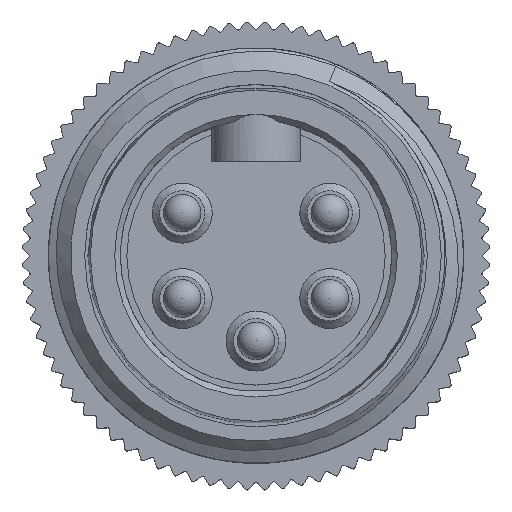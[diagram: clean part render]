
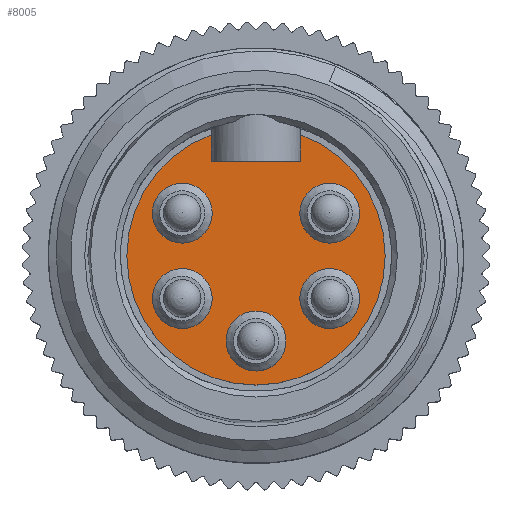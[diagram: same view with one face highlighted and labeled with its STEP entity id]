
A CAD part, top view. The second image highlights one B-rep face of the part: STEP entity #8005.
In plain terms, the highlighted planar face has unit normal (0, 0, 1).
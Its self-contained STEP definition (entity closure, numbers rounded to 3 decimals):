
#267 = EDGE_CURVE ( 'NONE', #13039, #13039, #6574, .T. ) ;
#293 = DIRECTION ( 'NONE',  ( -1., 0., 0. ) ) ;
#1129 = EDGE_LOOP ( 'NONE', ( #11181 ) ) ;
#1191 = EDGE_CURVE ( 'NONE', #18453, #18453, #1231, .T. ) ;
#1231 = CIRCLE ( 'NONE', #20681, 1.6 ) ;
#1575 = AXIS2_PLACEMENT_3D ( 'NONE', #19844, #13336, #10008 ) ;
#2425 = VERTEX_POINT ( 'NONE', #15048 ) ;
#2797 = CARTESIAN_POINT ( 'NONE',  ( 2.34, 2.28, -8. ) ) ;
#2827 = AXIS2_PLACEMENT_3D ( 'NONE', #8274, #18245, #3625 ) ;
#3313 = CARTESIAN_POINT ( 'NONE',  ( -2.4, 6.469, -8. ) ) ;
#3509 = CIRCLE ( 'NONE', #20726, 1.6 ) ;
#3625 = DIRECTION ( 'NONE',  ( -1., 0., 0. ) ) ;
#3673 = AXIS2_PLACEMENT_3D ( 'NONE', #11856, #11996, #5397 ) ;
#3745 = EDGE_LOOP ( 'NONE', ( #11832 ) ) ;
#4813 = ORIENTED_EDGE ( 'NONE', *, *, #267, .F. ) ;
#4995 = EDGE_LOOP ( 'NONE', ( #9355, #7850, #11711, #7447 ) ) ;
#5181 = DIRECTION ( 'NONE',  ( 0., 1., 0. ) ) ;
#5397 = DIRECTION ( 'NONE',  ( -1., 0., 0. ) ) ;
#5713 = FACE_BOUND ( 'NONE', #17333, .T. ) ;
#5903 = AXIS2_PLACEMENT_3D ( 'NONE', #15796, #7204, #7551 ) ;
#6013 = CIRCLE ( 'NONE', #5903, 6.9 ) ;
#6574 = CIRCLE ( 'NONE', #18903, 1.6 ) ;
#6576 = EDGE_CURVE ( 'NONE', #9856, #19609, #6013, .T. ) ;
#6585 = DIRECTION ( 'NONE',  ( 1., 0., 0. ) ) ;
#6812 = CARTESIAN_POINT ( 'NONE',  ( 2.4, 6.9, -8. ) ) ;
#6826 = EDGE_CURVE ( 'NONE', #10275, #19609, #13739, .T. ) ;
#7017 = EDGE_LOOP ( 'NONE', ( #14703 ) ) ;
#7099 = VERTEX_POINT ( 'NONE', #10880 ) ;
#7204 = DIRECTION ( 'NONE',  ( 0., 0., 1. ) ) ;
#7447 = ORIENTED_EDGE ( 'NONE', *, *, #6576, .T. ) ;
#7480 = CARTESIAN_POINT ( 'NONE',  ( 0., -4.55, -8. ) ) ;
#7551 = DIRECTION ( 'NONE',  ( 1., 0., 0. ) ) ;
#7762 = FACE_BOUND ( 'NONE', #7017, .T. ) ;
#7769 = CARTESIAN_POINT ( 'NONE',  ( 3.94, 2.28, -8. ) ) ;
#7850 = ORIENTED_EDGE ( 'NONE', *, *, #13648, .F. ) ;
#8005 = ADVANCED_FACE ( 'NONE', ( #12387, #7762, #12660, #18597, #13434, #5713 ), #8353, .F. ) ;
#8274 = CARTESIAN_POINT ( 'NONE',  ( -3.94, 2.28, -8. ) ) ;
#8353 = PLANE ( 'NONE',  #1575 ) ;
#8508 = DIRECTION ( 'NONE',  ( 0., 0., 1. ) ) ;
#9355 = ORIENTED_EDGE ( 'NONE', *, *, #6826, .F. ) ;
#9604 = VECTOR ( 'NONE', #5181, 1000. ) ;
#9804 = CARTESIAN_POINT ( 'NONE',  ( 2.4, 5.05, -8. ) ) ;
#9856 = VERTEX_POINT ( 'NONE', #3313 ) ;
#10008 = DIRECTION ( 'NONE',  ( 0., -1., 0. ) ) ;
#10275 = VERTEX_POINT ( 'NONE', #9804 ) ;
#10390 = EDGE_CURVE ( 'NONE', #7099, #7099, #14664, .T. ) ;
#10880 = CARTESIAN_POINT ( 'NONE',  ( -5.54, 2.28, -8. ) ) ;
#11181 = ORIENTED_EDGE ( 'NONE', *, *, #16340, .F. ) ;
#11317 = CARTESIAN_POINT ( 'NONE',  ( -5.54, -2.28, -8. ) ) ;
#11711 = ORIENTED_EDGE ( 'NONE', *, *, #18450, .F. ) ;
#11832 = ORIENTED_EDGE ( 'NONE', *, *, #10390, .F. ) ;
#11856 = CARTESIAN_POINT ( 'NONE',  ( 3.94, -2.28, -8. ) ) ;
#11996 = DIRECTION ( 'NONE',  ( 0., 0., 1. ) ) ;
#12387 = FACE_OUTER_BOUND ( 'NONE', #4995, .T. ) ;
#12660 = FACE_BOUND ( 'NONE', #1129, .T. ) ;
#12670 = DIRECTION ( 'NONE',  ( -1., 0., 0. ) ) ;
#12777 = VERTEX_POINT ( 'NONE', #11317 ) ;
#13039 = VERTEX_POINT ( 'NONE', #2797 ) ;
#13336 = DIRECTION ( 'NONE',  ( 0., 0., -1. ) ) ;
#13434 = FACE_BOUND ( 'NONE', #3745, .T. ) ;
#13648 = EDGE_CURVE ( 'NONE', #2425, #10275, #16562, .T. ) ;
#13739 = LINE ( 'NONE', #6812, #9604 ) ;
#14643 = CARTESIAN_POINT ( 'NONE',  ( 2.34, -2.28, -8. ) ) ;
#14664 = CIRCLE ( 'NONE', #2827, 1.6 ) ;
#14703 = ORIENTED_EDGE ( 'NONE', *, *, #19983, .F. ) ;
#14744 = DIRECTION ( 'NONE',  ( 0., -1., 0. ) ) ;
#15030 = CARTESIAN_POINT ( 'NONE',  ( 0., 5.05, -8. ) ) ;
#15048 = CARTESIAN_POINT ( 'NONE',  ( -2.4, 5.05, -8. ) ) ;
#15441 = ORIENTED_EDGE ( 'NONE', *, *, #1191, .F. ) ;
#15796 = CARTESIAN_POINT ( 'NONE',  ( 0., 0., -8. ) ) ;
#15938 = DIRECTION ( 'NONE',  ( 0., 0., 1. ) ) ;
#16100 = EDGE_LOOP ( 'NONE', ( #4813 ) ) ;
#16340 = EDGE_CURVE ( 'NONE', #21008, #21008, #19032, .T. ) ;
#16562 = LINE ( 'NONE', #15030, #17571 ) ;
#16690 = VECTOR ( 'NONE', #14744, 1000. ) ;
#17211 = CARTESIAN_POINT ( 'NONE',  ( 2.4, 6.469, -8. ) ) ;
#17333 = EDGE_LOOP ( 'NONE', ( #15441 ) ) ;
#17571 = VECTOR ( 'NONE', #6585, 1000. ) ;
#17592 = DIRECTION ( 'NONE',  ( -1., 0., 0. ) ) ;
#18137 = CARTESIAN_POINT ( 'NONE',  ( -2.4, 6.9, -8. ) ) ;
#18245 = DIRECTION ( 'NONE',  ( 0., 0., 1. ) ) ;
#18450 = EDGE_CURVE ( 'NONE', #9856, #2425, #21014, .T. ) ;
#18453 = VERTEX_POINT ( 'NONE', #19007 ) ;
#18597 = FACE_BOUND ( 'NONE', #16100, .T. ) ;
#18903 = AXIS2_PLACEMENT_3D ( 'NONE', #7769, #19287, #12670 ) ;
#19007 = CARTESIAN_POINT ( 'NONE',  ( -1.6, -4.55, -8. ) ) ;
#19032 = CIRCLE ( 'NONE', #3673, 1.6 ) ;
#19287 = DIRECTION ( 'NONE',  ( 0., 0., 1. ) ) ;
#19609 = VERTEX_POINT ( 'NONE', #17211 ) ;
#19743 = CARTESIAN_POINT ( 'NONE',  ( -3.94, -2.28, -8. ) ) ;
#19844 = CARTESIAN_POINT ( 'NONE',  ( 0., 6.9, -8. ) ) ;
#19983 = EDGE_CURVE ( 'NONE', #12777, #12777, #3509, .T. ) ;
#20681 = AXIS2_PLACEMENT_3D ( 'NONE', #7480, #15938, #17592 ) ;
#20726 = AXIS2_PLACEMENT_3D ( 'NONE', #19743, #8508, #293 ) ;
#21008 = VERTEX_POINT ( 'NONE', #14643 ) ;
#21014 = LINE ( 'NONE', #18137, #16690 ) ;
